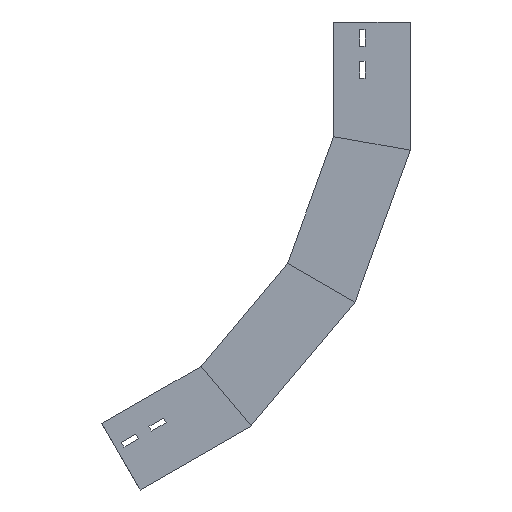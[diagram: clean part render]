
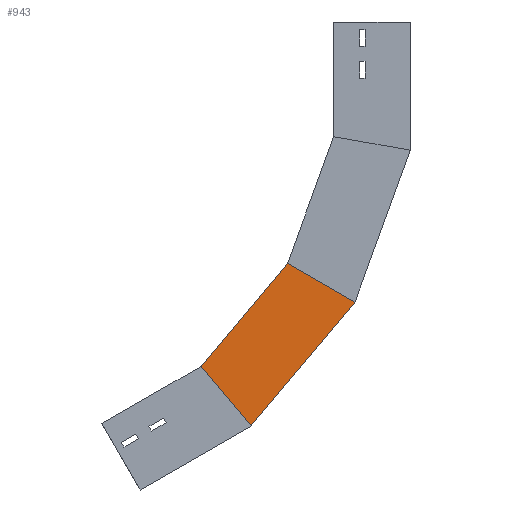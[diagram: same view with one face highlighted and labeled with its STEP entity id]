
A CAD part, left-side view. The second image highlights one B-rep face of the part: STEP entity #943.
In plain terms, the highlighted planar face has unit normal (-1, 0, 0) as drawn and (1, 0, 0) by its records, which use the part's own axes.
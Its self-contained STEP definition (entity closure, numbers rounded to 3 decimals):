
#60 = CARTESIAN_POINT ( 'NONE',  ( 0., 100., -149.767 ) ) ;
#93 = CARTESIAN_POINT ( 'NONE',  ( 0., 0., -167.4 ) ) ;
#184 = AXIS2_PLACEMENT_3D ( 'NONE', #93, #1419, #218 ) ;
#186 = DIRECTION ( 'NONE',  ( 0., -0.866, -0.5 ) ) ;
#218 = DIRECTION ( 'NONE',  ( 0., 0., 1. ) ) ;
#221 = ORIENTED_EDGE ( 'NONE', *, *, #1272, .T. ) ;
#297 = CARTESIAN_POINT ( 'NONE',  ( 0., 93.969, -133.198 ) ) ;
#354 = ORIENTED_EDGE ( 'NONE', *, *, #996, .T. ) ;
#393 = VERTEX_POINT ( 'NONE', #60 ) ;
#406 = CARTESIAN_POINT ( 'NONE',  ( 0., 0., -167.4 ) ) ;
#439 = EDGE_CURVE ( 'NONE', #1167, #1194, #832, .T. ) ;
#557 = ORIENTED_EDGE ( 'NONE', *, *, #1536, .F. ) ;
#608 = CARTESIAN_POINT ( 'NONE',  ( 0., 103.946, -347.441 ) ) ;
#649 = VECTOR ( 'NONE', #1082, 1000. ) ;
#676 = VECTOR ( 'NONE', #1677, 1000. ) ;
#686 = CARTESIAN_POINT ( 'NONE',  ( 0., 160.139, -314.998 ) ) ;
#832 = LINE ( 'NONE', #608, #1435 ) ;
#837 = CARTESIAN_POINT ( 'NONE',  ( 0., 0., -167.4 ) ) ;
#943 = ADVANCED_FACE ( 'NONE', ( #1400 ), #1281, .F. ) ;
#983 = CARTESIAN_POINT ( 'NONE',  ( 0., 72.2, -365.769 ) ) ;
#996 = EDGE_CURVE ( 'NONE', #393, #1531, #1275, .T. ) ;
#1029 = CARTESIAN_POINT ( 'NONE',  ( 0., 28.627, -162.352 ) ) ;
#1082 = DIRECTION ( 'NONE',  ( 0., 0.342, -0.94 ) ) ;
#1102 = LINE ( 'NONE', #837, #1217 ) ;
#1125 = EDGE_LOOP ( 'NONE', ( #557, #354, #221, #1645 ) ) ;
#1167 = VERTEX_POINT ( 'NONE', #686 ) ;
#1194 = VERTEX_POINT ( 'NONE', #983 ) ;
#1217 = VECTOR ( 'NONE', #1626, 1000. ) ;
#1272 = EDGE_CURVE ( 'NONE', #1531, #1194, #1102, .T. ) ;
#1275 = LINE ( 'NONE', #1029, #676 ) ;
#1281 = PLANE ( 'NONE',  #184 ) ;
#1346 = LINE ( 'NONE', #297, #649 ) ;
#1400 = FACE_OUTER_BOUND ( 'NONE', #1125, .T. ) ;
#1419 = DIRECTION ( 'NONE',  ( -1., 0., 0. ) ) ;
#1435 = VECTOR ( 'NONE', #186, 1000. ) ;
#1531 = VERTEX_POINT ( 'NONE', #406 ) ;
#1536 = EDGE_CURVE ( 'NONE', #393, #1167, #1346, .T. ) ;
#1626 = DIRECTION ( 'NONE',  ( 0., 0.342, -0.94 ) ) ;
#1645 = ORIENTED_EDGE ( 'NONE', *, *, #439, .F. ) ;
#1677 = DIRECTION ( 'NONE',  ( 0., -0.985, -0.174 ) ) ;
